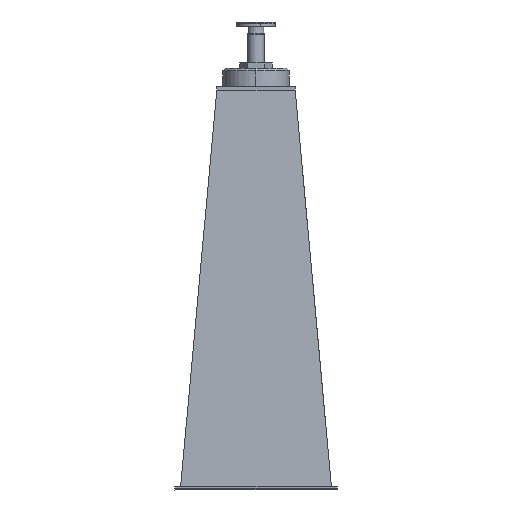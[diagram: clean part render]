
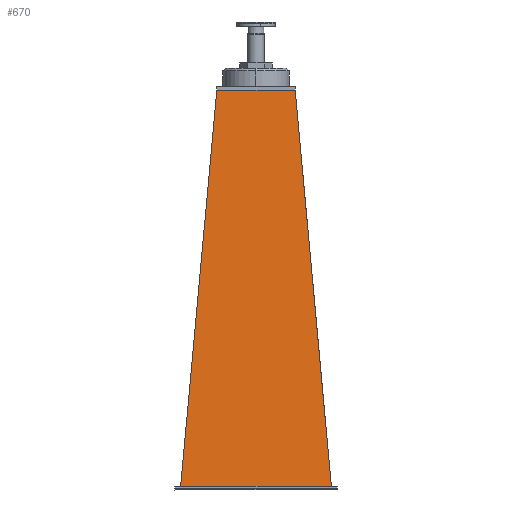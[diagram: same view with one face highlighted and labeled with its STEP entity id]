
A CAD part, left-side view. The second image highlights one B-rep face of the part: STEP entity #670.
In plain terms, the highlighted planar face has unit normal (-0.996, 0, 0.091).
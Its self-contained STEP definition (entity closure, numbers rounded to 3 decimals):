
#670=ADVANCED_FACE('',(#1354),#1355,.T.);
#1354=FACE_OUTER_BOUND('',#2091,.T.);
#1355=PLANE('',#2092);
#2091=EDGE_LOOP('',(#4106,#4107,#4108,#4109));
#2092=AXIS2_PLACEMENT_3D('',#4110,#4111,#4112);
#4106=ORIENTED_EDGE('',*,*,#5003,.T.);
#4107=ORIENTED_EDGE('',*,*,#4751,.F.);
#4108=ORIENTED_EDGE('',*,*,#4991,.T.);
#4109=ORIENTED_EDGE('',*,*,#5018,.T.);
#4110=CARTESIAN_POINT('',(47.742,288.763,663.273));
#4111=DIRECTION('',(-0.996,0.,0.091));
#4112=DIRECTION('',(0.,1.0,0.));
#4751=EDGE_CURVE('',#5735,#5730,#5737,.F.);
#4991=EDGE_CURVE('',#5735,#6049,#6051,.F.);
#5003=EDGE_CURVE('',#6070,#5730,#6073,.T.);
#5018=EDGE_CURVE('',#6049,#6070,#6092,.F.);
#5730=VERTEX_POINT('',#7418);
#5735=VERTEX_POINT('',#7425);
#5737=LINE('',#7428,#7429);
#6049=VERTEX_POINT('',#7997);
#6051=LINE('',#8000,#8001);
#6070=VERTEX_POINT('',#8028);
#6073=LINE('',#8033,#8034);
#6092=LINE('',#8061,#8062);
#7418=CARTESIAN_POINT('',(-12.283,101.75,6.));
#7425=CARTESIAN_POINT('',(47.717,161.75,663.));
#7428=CARTESIAN_POINT('',(48.275,162.308,669.11));
#7429=VECTOR('',#8566,1.);
#7997=CARTESIAN_POINT('',(47.717,291.775,663.));
#8000=CARTESIAN_POINT('',(47.717,257.763,663.));
#8001=VECTOR('',#8736,1.);
#8028=CARTESIAN_POINT('',(-12.283,351.775,6.));
#8033=CARTESIAN_POINT('',(-12.283,257.763,6.));
#8034=VECTOR('',#8747,1.);
#8061=CARTESIAN_POINT('',(48.275,291.217,669.11));
#8062=VECTOR('',#8756,1.);
#8566=DIRECTION('',(0.091,0.091,0.992));
#8736=DIRECTION('',(0.,-1.0,0.));
#8747=DIRECTION('',(0.,-1.0,0.));
#8756=DIRECTION('',(0.091,-0.091,0.992));
